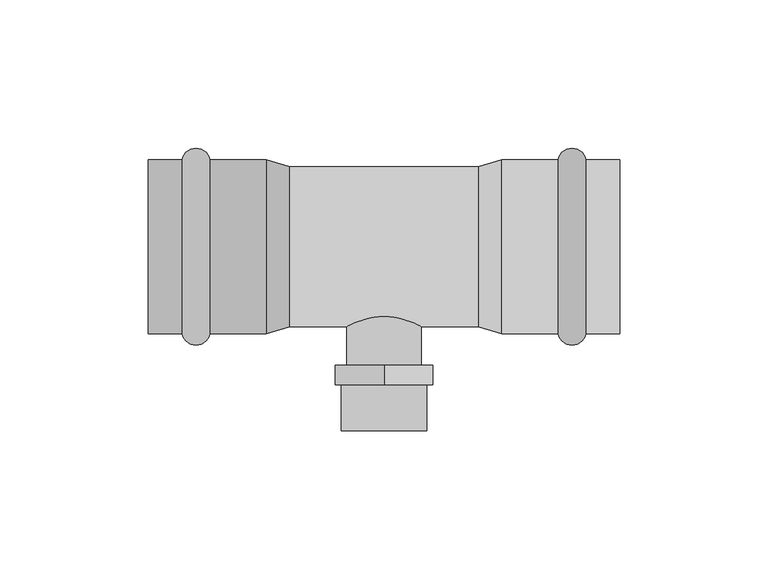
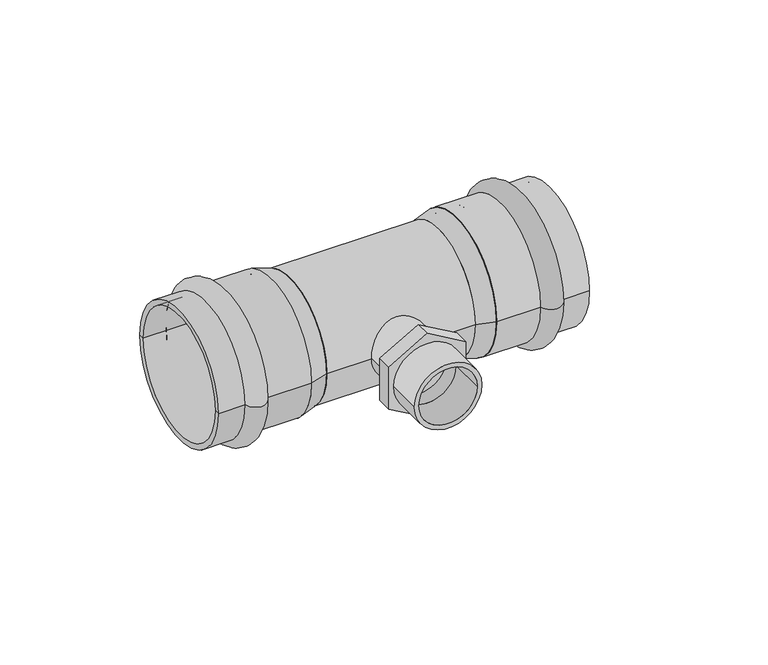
"""IFC4 building model written with IfcOpenShell, lengths in millimetres: pipe fitting geometry, VALTEC_VTi.933.I_Тройник с переходом на наружную  резьбу нержавеющая сталь : VTi.933.I."""

from ifc_helpers import new_model, si_unit, point, frame, origin, origin_2d, place, context, project, spatial, polyline, circle_curve, ellipse_curve, trimmed, segment, composite_curve, outline, extrude, source, transform, mapped, element, save
from ifc_brep_helpers import plane_surface, cylinder_surface, revolved_surface, advanced_brep


def pipe_fitting_1e4c1da4(model_context):
    return source(origin(), model_context, "Body", "SolidModel", [
        advanced_brep(
        [(68.1148701, 29.3, 0.0), (68.1148701, -29.3, 0.0), (58.6851299, -29.3, 0.0), (58.6851299, 29.3, 0.0), (79.5, 29.3, 0.0), (79.5, -29.3, 0.0), (79.5, 27.0, 0.0), (79.5, -27.0, 0.0), (39.75, 27.0, 0.0), (39.75, -27.0, 0.0), (39.75, 29.3, 0.0), (39.75, -29.3, 0.0)],
        [
            (0, 1, circle_curve(frame((68.1148701, 0.0, 0.0), z_axis=(-1.0, 0.0, 0.0), x_axis=(0.0, -1.0, 0.0)), 29.3)),
            (1, 2, circle_curve(frame((63.4, -28.4, 0.0), z_axis=(0.0, 0.0, -1.0), x_axis=(-1.0, 0.0, 0.0)), 4.8)),
            (2, 3, circle_curve(frame((58.6851299, 0.0, 0.0), z_axis=(1.0, 0.0, 0.0), x_axis=(0.0, -1.0, 0.0)), 29.3)),
            (3, 0, circle_curve(frame((63.4, 28.4, 0.0), z_axis=(0.0, 0.0, -1.0), x_axis=(-1.0, 0.0, 0.0)), 4.8)),
            (1, 0, circle_curve(frame((68.1148701, 0.0, 0.0), z_axis=(-1.0, 0.0, 0.0), x_axis=(0.0, -1.0, 0.0)), 29.3)),
            (3, 2, circle_curve(frame((58.6851299, 0.0, 0.0), z_axis=(1.0, 0.0, 0.0), x_axis=(0.0, -1.0, 0.0)), 29.3)),
            (4, 5, circle_curve(frame((79.5, 0.0, 0.0), z_axis=(-1.0, 0.0, 0.0), x_axis=(0.0, -1.0, 0.0)), 29.3)),
            (5, 1),
            (0, 4),
            (5, 4, circle_curve(frame((79.5, 0.0, 0.0), z_axis=(-1.0, 0.0, 0.0), x_axis=(0.0, -1.0, 0.0)), 29.3)),
            (6, 7, circle_curve(frame((79.5, 0.0, 0.0), z_axis=(-1.0, 0.0, 0.0), x_axis=(0.0, -1.0, 0.0)), 27.0)),
            (7, 5),
            (4, 6),
            (7, 6, circle_curve(frame((79.5, 0.0, 0.0), z_axis=(-1.0, 0.0, 0.0), x_axis=(0.0, -1.0, 0.0)), 27.0)),
            (8, 9, circle_curve(frame((39.75, 0.0, 0.0), z_axis=(-1.0, 0.0, 0.0), x_axis=(0.0, -1.0, 0.0)), 27.0)),
            (9, 7),
            (6, 8),
            (9, 8, circle_curve(frame((39.75, 0.0, 0.0), z_axis=(-1.0, 0.0, 0.0), x_axis=(0.0, -1.0, 0.0)), 27.0)),
            (10, 11, circle_curve(frame((39.75, 0.0, 0.0), z_axis=(-1.0, 0.0, 0.0), x_axis=(0.0, -1.0, 0.0)), 29.3)),
            (11, 9),
            (8, 10),
            (11, 10, circle_curve(frame((39.75, 0.0, 0.0), z_axis=(-1.0, 0.0, 0.0), x_axis=(0.0, -1.0, 0.0)), 29.3)),
            (2, 11),
            (10, 3),
        ],
        [
            revolved_surface(trimmed(ellipse_curve(frame((63.4, -28.4, 0.0), z_axis=(0.0, 0.0, 1.0), x_axis=(-1.0, 0.0, 0.0)), 4.8, 4.8), [point((58.6851299, -29.3, 0.0))], [point((68.1148701, -29.3, 0.0))], True, "CARTESIAN"), (83.0364426, 0.0, 0.0), (1.0, 0.0, 0.0)),
            cylinder_surface(frame((83.0364426, 0.0, 0.0), z_axis=(1.0, 0.0, 0.0), x_axis=(0.0, -1.0, 0.0)), 29.3),
            plane_surface(frame((79.5, 0.0, 0.0), z_axis=(1.0, 0.0, 0.0), x_axis=(0.0, -1.0, 0.0))),
            revolved_surface(polyline([(79.5, -27.0, 0.0), (39.75, -27.0, 0.0)]), (83.0364426, 0.0, 0.0), (1.0, 0.0, 0.0)),
            plane_surface(frame((39.75, 0.0, 0.0), z_axis=(-1.0, 0.0, 0.0), x_axis=(0.0, -1.0, 0.0))),
        ],
        [
            (0, [[1, 2, 3, 4]]),
            (0, [[5, -4, 6, -2]]),
            (1, [[7, 8, -1, 9]]),
            (1, [[10, -9, -5, -8]]),
            (2, [[11, 12, -7, 13]]),
            (2, [[14, -13, -10, -12]]),
            (3, [[15, 16, -11, 17]]),
            (3, [[18, -17, -14, -16]]),
            (4, [[19, 20, -15, 21]]),
            (4, [[22, -21, -18, -20]]),
            (1, [[-3, 23, -19, 24]]),
            (1, [[-6, -24, -22, -23]]),
        ],
    ),
        advanced_brep(
        [(-68.1148701, -29.3, 0.0), (-68.1148701, 29.3, 0.0), (-58.6851299, 29.3, 0.0), (-58.6851299, -29.3, 0.0), (-79.5, -29.3, 0.0), (-79.5, 29.3, 0.0), (-79.5, -27.0, 0.0), (-79.5, 27.0, 0.0), (-39.75, -27.0, 0.0), (-39.75, 27.0, 0.0), (-39.75, -29.3, 0.0), (-39.75, 29.3, 0.0)],
        [
            (0, 1, circle_curve(frame((-68.1148701, 0.0, 0.0), z_axis=(1.0, 0.0, 0.0), x_axis=(0.0, 1.0, 0.0)), 29.3)),
            (1, 2, circle_curve(frame((-63.4, 28.4, 0.0), z_axis=(0.0, 0.0, -1.0), x_axis=(1.0, 0.0, 0.0)), 4.8)),
            (2, 3, circle_curve(frame((-58.6851299, 0.0, 0.0), z_axis=(-1.0, 0.0, 0.0), x_axis=(0.0, 1.0, 0.0)), 29.3)),
            (3, 0, circle_curve(frame((-63.4, -28.4, 0.0), z_axis=(0.0, 0.0, -1.0), x_axis=(1.0, 0.0, 0.0)), 4.8)),
            (1, 0, circle_curve(frame((-68.1148701, 0.0, 0.0), z_axis=(1.0, 0.0, 0.0), x_axis=(0.0, 1.0, 0.0)), 29.3)),
            (3, 2, circle_curve(frame((-58.6851299, 0.0, 0.0), z_axis=(-1.0, 0.0, 0.0), x_axis=(0.0, 1.0, 0.0)), 29.3)),
            (4, 5, circle_curve(frame((-79.5, 0.0, 0.0), z_axis=(1.0, 0.0, 0.0), x_axis=(0.0, 1.0, 0.0)), 29.3)),
            (5, 1),
            (0, 4),
            (5, 4, circle_curve(frame((-79.5, 0.0, 0.0), z_axis=(1.0, 0.0, 0.0), x_axis=(0.0, 1.0, 0.0)), 29.3)),
            (6, 7, circle_curve(frame((-79.5, 0.0, 0.0), z_axis=(1.0, 0.0, 0.0), x_axis=(0.0, 1.0, 0.0)), 27.0)),
            (7, 5),
            (4, 6),
            (7, 6, circle_curve(frame((-79.5, 0.0, 0.0), z_axis=(1.0, 0.0, 0.0), x_axis=(0.0, 1.0, 0.0)), 27.0)),
            (8, 9, circle_curve(frame((-39.75, 0.0, 0.0), z_axis=(1.0, 0.0, 0.0), x_axis=(0.0, 1.0, 0.0)), 27.0)),
            (9, 7),
            (6, 8),
            (9, 8, circle_curve(frame((-39.75, 0.0, 0.0), z_axis=(1.0, 0.0, 0.0), x_axis=(0.0, 1.0, 0.0)), 27.0)),
            (10, 11, circle_curve(frame((-39.75, 0.0, 0.0), z_axis=(1.0, 0.0, 0.0), x_axis=(0.0, 1.0, 0.0)), 29.3)),
            (11, 9),
            (8, 10),
            (11, 10, circle_curve(frame((-39.75, 0.0, 0.0), z_axis=(1.0, 0.0, 0.0), x_axis=(0.0, 1.0, 0.0)), 29.3)),
            (2, 11),
            (10, 3),
        ],
        [
            revolved_surface(trimmed(ellipse_curve(frame((-63.4, 28.4, 0.0), z_axis=(0.0, 0.0, 1.0), x_axis=(1.0, 0.0, 0.0)), 4.8, 4.8), [point((-58.6851299, 29.3, 0.0))], [point((-68.1148701, 29.3, 0.0))], True, "CARTESIAN"), (-83.0364426, 0.0, 0.0), (-1.0, 0.0, 0.0)),
            cylinder_surface(frame((-83.0364426, 0.0, 0.0), z_axis=(-1.0, 0.0, 0.0), x_axis=(0.0, 1.0, 0.0)), 29.3),
            plane_surface(frame((-79.5, 0.0, 0.0), z_axis=(-1.0, 0.0, 0.0), x_axis=(0.0, 1.0, 0.0))),
            revolved_surface(polyline([(-79.5, 27.0, 0.0), (-39.75, 27.0, 0.0)]), (-83.0364426, 0.0, 0.0), (-1.0, 0.0, 0.0)),
            plane_surface(frame((-39.75, 0.0, 0.0), z_axis=(1.0, 0.0, 0.0), x_axis=(0.0, 1.0, 0.0))),
        ],
        [
            (0, [[1, 2, 3, 4]]),
            (0, [[5, -4, 6, -2]]),
            (1, [[7, 8, -1, 9]]),
            (1, [[10, -9, -5, -8]]),
            (2, [[11, 12, -7, 13]]),
            (2, [[14, -13, -10, -12]]),
            (3, [[15, 16, -11, 17]]),
            (3, [[18, -17, -14, -16]]),
            (4, [[19, 20, -15, 21]]),
            (4, [[22, -21, -18, -20]]),
            (1, [[-3, 23, -19, 24]]),
            (1, [[-6, -24, -22, -23]]),
        ],
    ),
        extrude(outline(composite_curve([segment(trimmed(circle_curve(origin_2d(), 14.5), [point((0.0, -14.5))], [point((0.0, 14.5))], False, "CARTESIAN"), True, "CONTINUOUS"), segment(trimmed(circle_curve(origin_2d(), 14.5), [point((0.0, 14.5))], [point((0.0, -14.5))], False, "CARTESIAN"), True, "CONTINUOUS")], self_intersect=False), holes=[composite_curve([segment(trimmed(circle_curve(origin_2d(), 12.5), [point((0.0, -12.5))], [point((0.0, 12.5))], True, "CARTESIAN"), True, "CONTINUOUS"), segment(trimmed(circle_curve(origin_2d(), 12.5), [point((0.0, 12.5))], [point((0.0, -12.5))], True, "CARTESIAN"), True, "CONTINUOUS")], self_intersect=False)]), frame((0.0, -62.0, 0.0), z_axis=(0.0, 1.0, 0.0), x_axis=(0.0, 0.0, 1.0)), (0.0, 0.0, 1.0), 15.4),
        extrude(outline(polyline([(19.0525589, 0.0), (9.5262794, -16.5), (-9.5262794, -16.5), (-19.0525589, 0.0), (-9.5262794, 16.5), (9.5262794, 16.5), (19.0525589, 0.0)]), holes=[composite_curve([segment(trimmed(circle_curve(origin_2d(), 12.5), [point((0.0, -12.5))], [point((0.0, 12.5))], True, "CARTESIAN"), True, "CONTINUOUS"), segment(trimmed(circle_curve(origin_2d(), 12.5), [point((0.0, 12.5))], [point((0.0, -12.5))], True, "CARTESIAN"), True, "CONTINUOUS")], self_intersect=False)]), frame((0.0, -46.6, 0.0), z_axis=(0.0, 1.0, 0.0), x_axis=(0.0, 0.0, 1.0)), (0.0, 0.0, 1.0), 6.6),
        extrude(outline(composite_curve([segment(trimmed(circle_curve(origin_2d(), 12.5), [point((0.0, -12.5))], [point((0.0, 12.5))], False, "CARTESIAN"), True, "CONTINUOUS"), segment(trimmed(circle_curve(origin_2d(), 12.5), [point((0.0, 12.5))], [point((0.0, -12.5))], False, "CARTESIAN"), True, "CONTINUOUS")], self_intersect=False)), frame((0.0, -40.0, 0.0), z_axis=(0.0, 1.0, 0.0), x_axis=(0.0, 0.0, 1.0)), (0.0, 0.0, 1.0), 40.0),
        extrude(outline(composite_curve([segment(trimmed(circle_curve(origin_2d(), 27.0), [point((-27.0, 0.0))], [point((27.0, 0.0))], False, "CARTESIAN"), True, "CONTINUOUS"), segment(trimmed(circle_curve(origin_2d(), 27.0), [point((27.0, 0.0))], [point((-27.0, 0.0))], False, "CARTESIAN"), True, "CONTINUOUS")], self_intersect=False)), frame((-31.8, 0.0, 0.0), z_axis=(1.0, 0.0, 0.0), x_axis=(0.0, 1.0, 0.0)), (0.0, 0.0, 1.0), 63.6),
        advanced_brep(
        [(39.75, -29.3, 0.0), (39.75, 29.3, 0.0), (31.8, -27.0, 0.0), (31.8, 27.0, 0.0)],
        [
            (0, 1, circle_curve(frame((39.75, 0.0, 0.0), z_axis=(1.0, 0.0, 0.0), x_axis=(0.0, -1.0, 0.0)), 29.3)),
            (1, 0, circle_curve(frame((39.75, 0.0, 0.0), z_axis=(1.0, 0.0, 0.0), x_axis=(0.0, 1.0, 0.0)), 29.3)),
            (2, 3, circle_curve(frame((31.8, 0.0, 0.0), z_axis=(-1.0, 0.0, 0.0), x_axis=(0.0, 1.0, 0.0)), 27.0)),
            (3, 2, circle_curve(frame((31.8, 0.0, 0.0), z_axis=(-1.0, 0.0, 0.0), x_axis=(0.0, -1.0, 0.0)), 27.0)),
            (3, 1),
            (0, 2),
        ],
        [
            plane_surface(frame((39.75, 0.0, 0.0), z_axis=(1.0, 0.0, 0.0), x_axis=(0.0, 0.0, 1.0))),
            plane_surface(frame((31.8, 0.0, 0.0), z_axis=(-1.0, 0.0, 0.0), x_axis=(0.0, 0.0, 1.0))),
            revolved_surface(polyline([(31.800000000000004, 27.000000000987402, 0.0), (39.74999999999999, 29.3, 0.0)]), (-61.526087, 0.0, 0.0), (1.0, 0.0, 0.0)),
            revolved_surface(polyline([(31.800000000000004, -27.000000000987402, 0.0), (39.74999999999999, -29.3, 0.0)]), (-61.526087, 0.0, 0.0), (1.0, 0.0, 0.0)),
        ],
        [
            (0, [[1, 2]]),
            (1, [[3, 4]]),
            (2, [[-4, 5, -1, 6]]),
            (3, [[-3, -6, -2, -5]]),
        ],
    ),
        advanced_brep(
        [(-39.75, -29.3, 0.0), (-39.75, 29.3, 0.0), (-31.8, -27.0, 0.0), (-31.8, 27.0, 0.0)],
        [
            (0, 1, circle_curve(frame((-39.75, 0.0, 0.0), z_axis=(-1.0, 0.0, 0.0), x_axis=(0.0, -1.0, 0.0)), 29.3)),
            (1, 0, circle_curve(frame((-39.75, 0.0, 0.0), z_axis=(-1.0, 0.0, 0.0), x_axis=(0.0, 1.0, 0.0)), 29.3)),
            (2, 3, circle_curve(frame((-31.8, 0.0, 0.0), z_axis=(1.0, 0.0, 0.0), x_axis=(0.0, 1.0, 0.0)), 27.0)),
            (3, 2, circle_curve(frame((-31.8, 0.0, 0.0), z_axis=(1.0, 0.0, 0.0), x_axis=(0.0, -1.0, 0.0)), 27.0)),
            (2, 0),
            (1, 3),
        ],
        [
            plane_surface(frame((-39.75, 0.0, 0.0), z_axis=(-1.0, 0.0, 0.0), x_axis=(0.0, 0.0, -1.0))),
            plane_surface(frame((-31.8, 0.0, 0.0), z_axis=(1.0, 0.0, 0.0), x_axis=(0.0, 0.0, -1.0))),
            revolved_surface(polyline([(-31.800000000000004, -27.000000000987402, 0.0), (-39.74999999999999, -29.3, 0.0)]), (61.526087, 0.0, 0.0), (-1.0, 0.0, 0.0)),
            revolved_surface(polyline([(-31.800000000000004, 27.000000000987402, 0.0), (-39.74999999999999, 29.3, 0.0)]), (61.526087, 0.0, 0.0), (-1.0, 0.0, 0.0)),
        ],
        [
            (0, [[1, 2]]),
            (1, [[3, 4]]),
            (2, [[-3, 5, -2, 6]]),
            (3, [[-4, -6, -1, -5]]),
        ],
    ),
    ])


if __name__ == "__main__":
    model = new_model("IFC4")
    model_context = context("Model", 3, world=origin())
    ifc_project = project(units=[si_unit("LENGTHUNIT", "METRE", prefix="MILLI")], contexts=[model_context])
    site = spatial("IfcSite", under=ifc_project)
    building = spatial("IfcBuilding", under=site)
    placement = place(None, origin())
    pipe_fitting_shape = pipe_fitting_1e4c1da4(model_context)
    element("IfcPipeFitting", 1, ObjectType="VALTEC_VTi.933.I_Тройник с переходом на наружную  резьбу нержавеющая сталь : VTi.933.I", at=placement, inside=building, context=model_context, shape_type="MappedRepresentation", body=[
        mapped(pipe_fitting_shape, transform((0.0, 0.0, 0.0), x_axis=(1.0, 0.0, 0.0), y_axis=(0.0, 1.0, 0.0), z_axis=(0.0, 0.0, 1.0))),
    ])
    save(model, "model.ifc")
